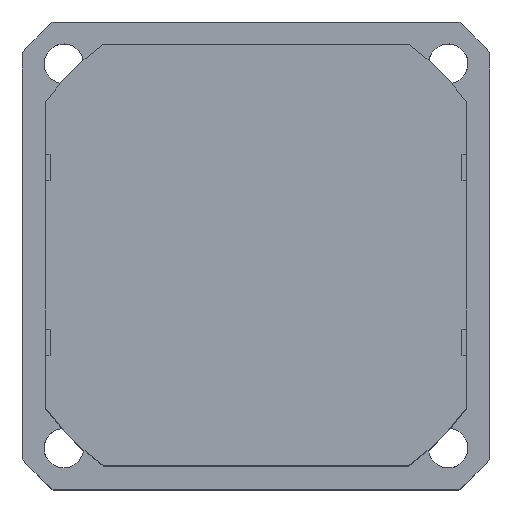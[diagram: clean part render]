
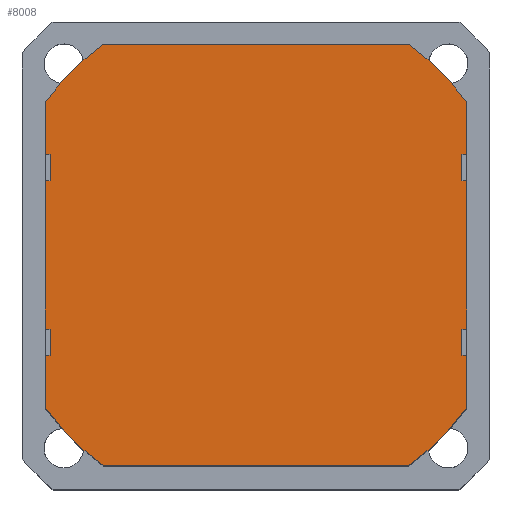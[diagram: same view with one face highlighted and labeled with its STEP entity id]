
A CAD part, top view. The second image highlights one B-rep face of the part: STEP entity #8008.
In plain terms, the highlighted planar face has unit normal (0, 0, 1).
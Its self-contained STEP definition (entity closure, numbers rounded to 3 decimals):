
#2103=LINE('',#11396,#9480);
#2104=LINE('',#11401,#9481);
#2105=LINE('',#11405,#9482);
#2106=LINE('',#11407,#9483);
#2107=LINE('',#11409,#9484);
#2108=LINE('',#11411,#9485);
#2109=LINE('',#11413,#9486);
#2110=LINE('',#11415,#9487);
#2111=LINE('',#11417,#9488);
#2112=LINE('',#11419,#9489);
#2113=LINE('',#11421,#9490);
#2114=LINE('',#11425,#9491);
#2115=LINE('',#11429,#9492);
#2116=LINE('',#11431,#9493);
#2117=LINE('',#11433,#9494);
#2118=LINE('',#11435,#9495);
#2119=LINE('',#11437,#9496);
#2120=LINE('',#11439,#9497);
#2121=LINE('',#11441,#9498);
#2122=LINE('',#11443,#9499);
#2772=CIRCLE('',#8630,79.);
#2773=CIRCLE('',#8631,79.);
#2774=CIRCLE('',#8632,79.);
#2775=CIRCLE('',#8633,79.);
#3178=VERTEX_POINT('',#11397);
#3179=VERTEX_POINT('',#11398);
#3180=VERTEX_POINT('',#11400);
#3181=VERTEX_POINT('',#11402);
#3182=VERTEX_POINT('',#11404);
#3183=VERTEX_POINT('',#11406);
#3184=VERTEX_POINT('',#11408);
#3185=VERTEX_POINT('',#11410);
#3186=VERTEX_POINT('',#11412);
#3187=VERTEX_POINT('',#11414);
#3188=VERTEX_POINT('',#11416);
#3189=VERTEX_POINT('',#11418);
#3190=VERTEX_POINT('',#11420);
#3191=VERTEX_POINT('',#11422);
#3192=VERTEX_POINT('',#11424);
#3193=VERTEX_POINT('',#11426);
#3194=VERTEX_POINT('',#11428);
#3195=VERTEX_POINT('',#11430);
#3196=VERTEX_POINT('',#11432);
#3197=VERTEX_POINT('',#11434);
#3198=VERTEX_POINT('',#11436);
#3199=VERTEX_POINT('',#11438);
#3200=VERTEX_POINT('',#11440);
#3201=VERTEX_POINT('',#11442);
#4018=EDGE_CURVE('',#3178,#3179,#2103,.T.);
#4019=EDGE_CURVE('',#3180,#3178,#2772,.T.);
#4020=EDGE_CURVE('',#3181,#3180,#2104,.T.);
#4021=EDGE_CURVE('',#3182,#3181,#2773,.T.);
#4022=EDGE_CURVE('',#3183,#3182,#2105,.T.);
#4023=EDGE_CURVE('',#3184,#3183,#2106,.T.);
#4024=EDGE_CURVE('',#3185,#3184,#2107,.T.);
#4025=EDGE_CURVE('',#3186,#3185,#2108,.T.);
#4026=EDGE_CURVE('',#3187,#3186,#2109,.T.);
#4027=EDGE_CURVE('',#3188,#3187,#2110,.T.);
#4028=EDGE_CURVE('',#3189,#3188,#2111,.T.);
#4029=EDGE_CURVE('',#3190,#3189,#2112,.T.);
#4030=EDGE_CURVE('',#3191,#3190,#2113,.T.);
#4031=EDGE_CURVE('',#3192,#3191,#2774,.T.);
#4032=EDGE_CURVE('',#3193,#3192,#2114,.T.);
#4033=EDGE_CURVE('',#3194,#3193,#2775,.T.);
#4034=EDGE_CURVE('',#3195,#3194,#2115,.T.);
#4035=EDGE_CURVE('',#3196,#3195,#2116,.T.);
#4036=EDGE_CURVE('',#3197,#3196,#2117,.T.);
#4037=EDGE_CURVE('',#3198,#3197,#2118,.T.);
#4038=EDGE_CURVE('',#3199,#3198,#2119,.T.);
#4039=EDGE_CURVE('',#3200,#3199,#2120,.T.);
#4040=EDGE_CURVE('',#3201,#3200,#2121,.T.);
#4041=EDGE_CURVE('',#3179,#3201,#2122,.T.);
#5250=ORIENTED_EDGE('',*,*,#4018,.F.);
#5251=ORIENTED_EDGE('',*,*,#4019,.F.);
#5252=ORIENTED_EDGE('',*,*,#4020,.F.);
#5253=ORIENTED_EDGE('',*,*,#4021,.F.);
#5254=ORIENTED_EDGE('',*,*,#4022,.F.);
#5255=ORIENTED_EDGE('',*,*,#4023,.F.);
#5256=ORIENTED_EDGE('',*,*,#4024,.F.);
#5257=ORIENTED_EDGE('',*,*,#4025,.F.);
#5258=ORIENTED_EDGE('',*,*,#4026,.F.);
#5259=ORIENTED_EDGE('',*,*,#4027,.F.);
#5260=ORIENTED_EDGE('',*,*,#4028,.F.);
#5261=ORIENTED_EDGE('',*,*,#4029,.F.);
#5262=ORIENTED_EDGE('',*,*,#4030,.F.);
#5263=ORIENTED_EDGE('',*,*,#4031,.F.);
#5264=ORIENTED_EDGE('',*,*,#4032,.F.);
#5265=ORIENTED_EDGE('',*,*,#4033,.F.);
#5266=ORIENTED_EDGE('',*,*,#4034,.F.);
#5267=ORIENTED_EDGE('',*,*,#4035,.F.);
#5268=ORIENTED_EDGE('',*,*,#4036,.F.);
#5269=ORIENTED_EDGE('',*,*,#4037,.F.);
#5270=ORIENTED_EDGE('',*,*,#4038,.F.);
#5271=ORIENTED_EDGE('',*,*,#4039,.F.);
#5272=ORIENTED_EDGE('',*,*,#4040,.F.);
#5273=ORIENTED_EDGE('',*,*,#4041,.F.);
#6972=EDGE_LOOP('',(#5250,#5251,#5252,#5253,#5254,#5255,#5256,#5257,#5258,
#5259,#5260,#5261,#5262,#5263,#5264,#5265,#5266,#5267,#5268,#5269,#5270,
#5271,#5272,#5273));
#7504=FACE_BOUND('',#6972,.T.);
#8008=ADVANCED_FACE('',(#7504),#9997,.T.);
#8629=AXIS2_PLACEMENT_3D('',#11395,#15266,$);
#8630=AXIS2_PLACEMENT_3D('',#11399,#15268,#15269);
#8631=AXIS2_PLACEMENT_3D('',#11403,#15271,#15272);
#8632=AXIS2_PLACEMENT_3D('',#11423,#15282,#15283);
#8633=AXIS2_PLACEMENT_3D('',#11427,#15285,#15286);
#9480=VECTOR('',#15267,1.);
#9481=VECTOR('',#15270,1.);
#9482=VECTOR('',#15273,1.);
#9483=VECTOR('',#15274,1.);
#9484=VECTOR('',#15275,1.);
#9485=VECTOR('',#15276,1.);
#9486=VECTOR('',#15277,1.);
#9487=VECTOR('',#15278,1.);
#9488=VECTOR('',#15279,1.);
#9489=VECTOR('',#15280,1.);
#9490=VECTOR('',#15281,1.);
#9491=VECTOR('',#15284,1.);
#9492=VECTOR('',#15287,1.);
#9493=VECTOR('',#15288,1.);
#9494=VECTOR('',#15289,1.);
#9495=VECTOR('',#15290,1.);
#9496=VECTOR('',#15291,1.);
#9497=VECTOR('',#15292,1.);
#9498=VECTOR('',#15293,1.);
#9499=VECTOR('',#15294,1.);
#9997=PLANE('',#8629);
#11395=CARTESIAN_POINT('',(0.,0.,
88.));
#11396=CARTESIAN_POINT('',(64.,30.5,88.));
#11397=CARTESIAN_POINT('',(64.,46.314,88.));
#11398=CARTESIAN_POINT('',(64.,30.5,88.));
#11399=CARTESIAN_POINT('',(0.,0.,88.));
#11400=CARTESIAN_POINT('',(46.314,64.,88.));
#11401=CARTESIAN_POINT('',(46.314,64.,88.));
#11402=CARTESIAN_POINT('',(-46.314,64.,88.));
#11403=CARTESIAN_POINT('',(0.,0.,88.));
#11404=CARTESIAN_POINT('',(-64.,46.314,88.));
#11405=CARTESIAN_POINT('',(-64.,46.314,88.));
#11406=CARTESIAN_POINT('',(-64.,30.5,88.));
#11407=CARTESIAN_POINT('',(-64.,30.5,88.));
#11408=CARTESIAN_POINT('',(-62.5,30.5,88.));
#11409=CARTESIAN_POINT('',(-62.5,30.5,88.));
#11410=CARTESIAN_POINT('',(-62.5,22.5,88.));
#11411=CARTESIAN_POINT('',(-62.5,22.5,88.));
#11412=CARTESIAN_POINT('',(-64.,22.5,88.));
#11413=CARTESIAN_POINT('',(-64.,22.5,88.));
#11414=CARTESIAN_POINT('',(-64.,-22.5,88.));
#11415=CARTESIAN_POINT('',(-64.,-22.5,88.));
#11416=CARTESIAN_POINT('',(-62.5,-22.5,88.));
#11417=CARTESIAN_POINT('',(-62.5,-22.5,88.));
#11418=CARTESIAN_POINT('',(-62.5,-30.5,88.));
#11419=CARTESIAN_POINT('',(-62.5,-30.5,88.));
#11420=CARTESIAN_POINT('',(-64.,-30.5,88.));
#11421=CARTESIAN_POINT('',(-64.,-30.5,88.));
#11422=CARTESIAN_POINT('',(-64.,-46.314,88.));
#11423=CARTESIAN_POINT('',(0.,0.,88.));
#11424=CARTESIAN_POINT('',(-46.314,-64.,88.));
#11425=CARTESIAN_POINT('',(-46.314,-64.,88.));
#11426=CARTESIAN_POINT('',(46.314,-64.,88.));
#11427=CARTESIAN_POINT('',(0.,0.,88.));
#11428=CARTESIAN_POINT('',(64.,-46.314,88.));
#11429=CARTESIAN_POINT('',(64.,-46.314,88.));
#11430=CARTESIAN_POINT('',(64.,-30.5,88.));
#11431=CARTESIAN_POINT('',(64.,-30.5,88.));
#11432=CARTESIAN_POINT('',(62.5,-30.5,88.));
#11433=CARTESIAN_POINT('',(62.5,-30.5,88.));
#11434=CARTESIAN_POINT('',(62.5,-22.5,88.));
#11435=CARTESIAN_POINT('',(62.5,-22.5,88.));
#11436=CARTESIAN_POINT('',(64.,-22.5,88.));
#11437=CARTESIAN_POINT('',(64.,-22.5,88.));
#11438=CARTESIAN_POINT('',(64.,22.5,88.));
#11439=CARTESIAN_POINT('',(64.,22.5,88.));
#11440=CARTESIAN_POINT('',(62.5,22.5,88.));
#11441=CARTESIAN_POINT('',(62.5,22.5,88.));
#11442=CARTESIAN_POINT('',(62.5,30.5,88.));
#11443=CARTESIAN_POINT('',(62.5,30.5,88.));
#15266=DIRECTION('',(0.,0.,1.));
#15267=DIRECTION('',(0.,-1.,0.));
#15268=DIRECTION('',(0.,0.,-1.));
#15269=DIRECTION('',(79.,0.,0.));
#15270=DIRECTION('',(1.,0.,0.));
#15271=DIRECTION('',(0.,0.,-1.));
#15272=DIRECTION('',(79.,0.,0.));
#15273=DIRECTION('',(0.,1.,0.));
#15274=DIRECTION('',(-1.,0.,0.));
#15275=DIRECTION('',(0.,1.,0.));
#15276=DIRECTION('',(1.,0.,0.));
#15277=DIRECTION('',(0.,1.,0.));
#15278=DIRECTION('',(-1.,0.,0.));
#15279=DIRECTION('',(0.,1.,0.));
#15280=DIRECTION('',(1.,0.,0.));
#15281=DIRECTION('',(0.,1.,0.));
#15282=DIRECTION('',(0.,0.,-1.));
#15283=DIRECTION('',(79.,0.,0.));
#15284=DIRECTION('',(-1.,0.,0.));
#15285=DIRECTION('',(0.,0.,-1.));
#15286=DIRECTION('',(79.,0.,0.));
#15287=DIRECTION('',(0.,-1.,0.));
#15288=DIRECTION('',(1.,0.,0.));
#15289=DIRECTION('',(0.,-1.,0.));
#15290=DIRECTION('',(-1.,0.,0.));
#15291=DIRECTION('',(0.,-1.,0.));
#15292=DIRECTION('',(1.,0.,0.));
#15293=DIRECTION('',(0.,-1.,0.));
#15294=DIRECTION('',(-1.,0.,0.));
